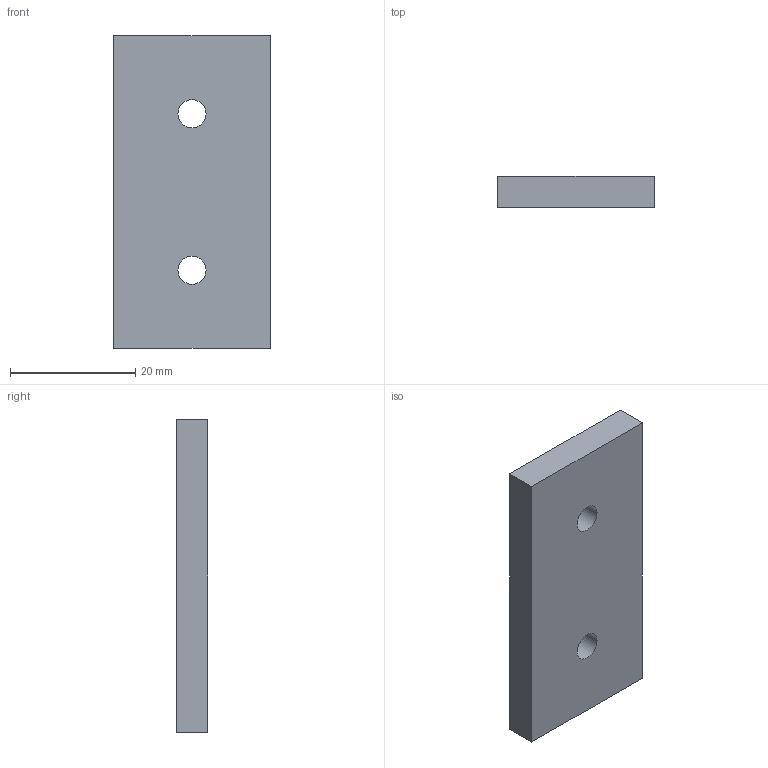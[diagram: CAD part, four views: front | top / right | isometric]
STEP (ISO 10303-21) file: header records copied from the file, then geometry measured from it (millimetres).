
FILE_DESCRIPTION(/* description */ (''),/* implementation_level */ '2;1');
FILE_NAME(/* name */ 'connection.stp',/* time_stamp */ '2026-04-10T09:55:43+08:00',/* author */ ('32769'),/* organization */ (''),/* preprocessor_version */ 'ST-DEVELOPER v20',/* originating_system */ 'Autodesk Inventor 2025',/* authorisation */ '');
FILE_SCHEMA (('AUTOMOTIVE_DESIGN { 1 0 10303 214 3 1 1 }'));
Length unit declared in the file: millimetre
Products named in the file (1): connection
Bounding box: 25 x 5 x 50 mm (x, y, z)
Volume: 6091 mm3; surface area: 3327.8 mm2
Topology: 1 solids, 1 shells, 8 faces, 18 edges, 12 vertices
Faces by surface type: plane 6, cylinder 2
Full cylindrical faces by diameter (mm): 4.5 x2
Entity records: 277 total; most frequent: DIRECTION 40, CARTESIAN_POINT 39, ORIENTED_EDGE 36, EDGE_CURVE 18, LINE 14, VECTOR 14, AXIS2_PLACEMENT_3D 13, EDGE_LOOP 12
